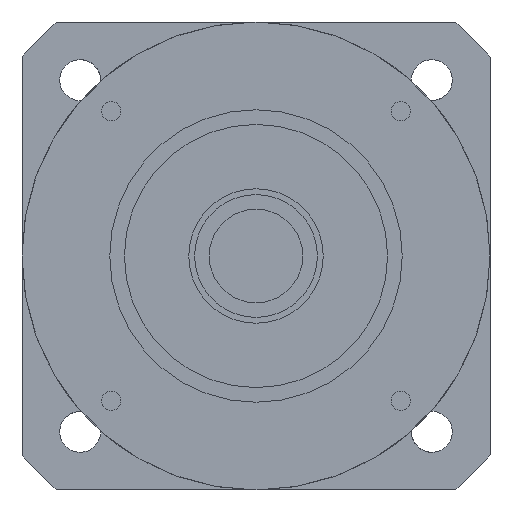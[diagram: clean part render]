
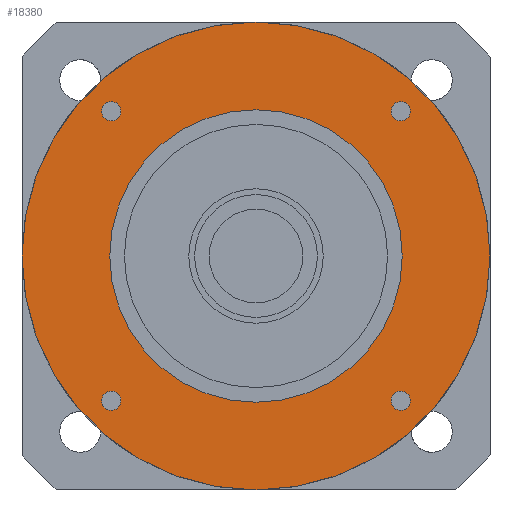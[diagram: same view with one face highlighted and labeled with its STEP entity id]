
A CAD part, left-side view. The second image highlights one B-rep face of the part: STEP entity #18380.
In plain terms, the highlighted planar face has unit normal (-1, 0, 0) as drawn and (0, 0, -1) by its records, which use the part's own axes.
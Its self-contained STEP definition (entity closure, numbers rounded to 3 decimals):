
#14250=CARTESIAN_POINT('',(23.099,24.749,-42.));
#14260=VERTEX_POINT('',#14250);
#14440=CARTESIAN_POINT('',(26.399,24.749,-42.));
#14450=VERTEX_POINT('',#14440);
#14480=CARTESIAN_POINT('',(24.749,24.749,-42.));
#14490=DIRECTION('',(0.,0.,-1.));
#14500=DIRECTION('',(1.,0.,0.));
#14510=AXIS2_PLACEMENT_3D('',#14480,#14490,#14500);
#14520=CIRCLE('',#14510,1.65);
#14530=EDGE_CURVE('',#14260,#14450,#14520,.T.);
#17400=CARTESIAN_POINT('',(-40.,0.,-42.));
#17410=VERTEX_POINT('',#17400);
#17440=CARTESIAN_POINT('',(0.,0.,-42.));
#17450=DIRECTION('',(0.,0.,-1.));
#17460=DIRECTION('',(1.,0.,0.));
#17470=AXIS2_PLACEMENT_3D('',#17440,#17450,#17460);
#17480=CIRCLE('',#17470,40.);
#17490=CARTESIAN_POINT('',(40.,0.,-42.));
#17500=VERTEX_POINT('',#17490);
#17510=EDGE_CURVE('',#17410,#17500,#17480,.T.);
#17630=CARTESIAN_POINT('',(0.,0.,-42.));
#17640=DIRECTION('',(0.,0.,1.));
#17650=DIRECTION('',(1.,0.,0.));
#17660=AXIS2_PLACEMENT_3D('',#17630,#17640,#17650);
#17670=PLANE('',#17660);
#17680=CARTESIAN_POINT('',(24.749,-24.749,-42.));
#17690=DIRECTION('',(0.,0.,-1.));
#17700=DIRECTION('',(1.,0.,0.));
#17710=AXIS2_PLACEMENT_3D('',#17680,#17690,#17700);
#17720=CIRCLE('',#17710,1.65);
#17730=CARTESIAN_POINT('',(26.399,-24.749,-42.));
#17740=VERTEX_POINT('',#17730);
#17750=CARTESIAN_POINT('',(23.099,-24.749,-42.));
#17760=VERTEX_POINT('',#17750);
#17770=EDGE_CURVE('',#17740,#17760,#17720,.T.);
#17780=ORIENTED_EDGE('',*,*,#17770,.F.);
#17790=EDGE_CURVE('',#17760,#17740,#17720,.T.);
#17800=ORIENTED_EDGE('',*,*,#17790,.F.);
#17810=EDGE_LOOP('',(#17800,#17780));
#17820=FACE_BOUND('',#17810,.T.);
#17830=CARTESIAN_POINT('',(0.,0.,-42.));
#17840=DIRECTION('',(0.,0.,1.));
#17850=DIRECTION('',(-1.,0.,0.));
#17860=AXIS2_PLACEMENT_3D('',#17830,#17840,#17850);
#17870=CIRCLE('',#17860,25.);
#17880=CARTESIAN_POINT('',(-25.,0.,-42.));
#17890=VERTEX_POINT('',#17880);
#17900=CARTESIAN_POINT('',(25.,0.,-42.));
#17910=VERTEX_POINT('',#17900);
#17920=EDGE_CURVE('',#17890,#17910,#17870,.T.);
#17930=ORIENTED_EDGE('',*,*,#17920,.T.);
#17940=EDGE_CURVE('',#17910,#17890,#17870,.T.);
#17950=ORIENTED_EDGE('',*,*,#17940,.T.);
#17960=EDGE_LOOP('',(#17950,#17930));
#17970=FACE_BOUND('',#17960,.T.);
#17980=CARTESIAN_POINT('',(-24.749,-24.749,-42.));
#17990=DIRECTION('',(0.,0.,-1.));
#18000=DIRECTION('',(1.,0.,0.));
#18010=AXIS2_PLACEMENT_3D('',#17980,#17990,#18000);
#18020=CIRCLE('',#18010,1.65);
#18030=CARTESIAN_POINT('',(-23.099,-24.749,-42.));
#18040=VERTEX_POINT('',#18030);
#18050=CARTESIAN_POINT('',(-26.399,-24.749,-42.));
#18060=VERTEX_POINT('',#18050);
#18070=EDGE_CURVE('',#18040,#18060,#18020,.T.);
#18080=ORIENTED_EDGE('',*,*,#18070,.F.);
#18090=EDGE_CURVE('',#18060,#18040,#18020,.T.);
#18100=ORIENTED_EDGE('',*,*,#18090,.F.);
#18110=EDGE_LOOP('',(#18100,#18080));
#18120=FACE_BOUND('',#18110,.T.);
#18130=CARTESIAN_POINT('',(-24.749,24.749,-42.));
#18140=DIRECTION('',(0.,0.,-1.));
#18150=DIRECTION('',(1.,0.,0.));
#18160=AXIS2_PLACEMENT_3D('',#18130,#18140,#18150);
#18170=CIRCLE('',#18160,1.65);
#18180=CARTESIAN_POINT('',(-23.099,24.749,-42.));
#18190=VERTEX_POINT('',#18180);
#18200=CARTESIAN_POINT('',(-26.399,24.749,-42.));
#18210=VERTEX_POINT('',#18200);
#18220=EDGE_CURVE('',#18190,#18210,#18170,.T.);
#18230=ORIENTED_EDGE('',*,*,#18220,.F.);
#18240=EDGE_CURVE('',#18210,#18190,#18170,.T.);
#18250=ORIENTED_EDGE('',*,*,#18240,.F.);
#18260=EDGE_LOOP('',(#18250,#18230));
#18270=FACE_BOUND('',#18260,.T.);
#18280=EDGE_CURVE('',#14450,#14260,#14520,.T.);
#18290=ORIENTED_EDGE('',*,*,#18280,.F.);
#18300=ORIENTED_EDGE('',*,*,#14530,.F.);
#18310=EDGE_LOOP('',(#18300,#18290));
#18320=FACE_BOUND('',#18310,.T.);
#18330=EDGE_CURVE('',#17500,#17410,#17480,.T.);
#18340=ORIENTED_EDGE('',*,*,#18330,.T.);
#18350=ORIENTED_EDGE('',*,*,#17510,.T.);
#18360=EDGE_LOOP('',(#18350,#18340));
#18370=FACE_OUTER_BOUND('',#18360,.T.);
#18380=ADVANCED_FACE('',(#17820,#17970,#18120,#18270,#18320,#18370),
#17670,.F.);
